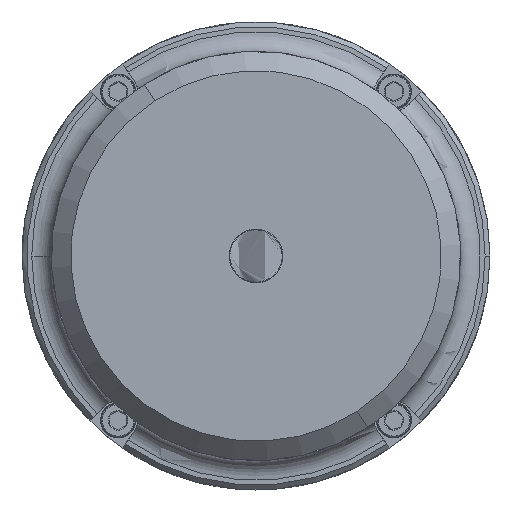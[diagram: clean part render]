
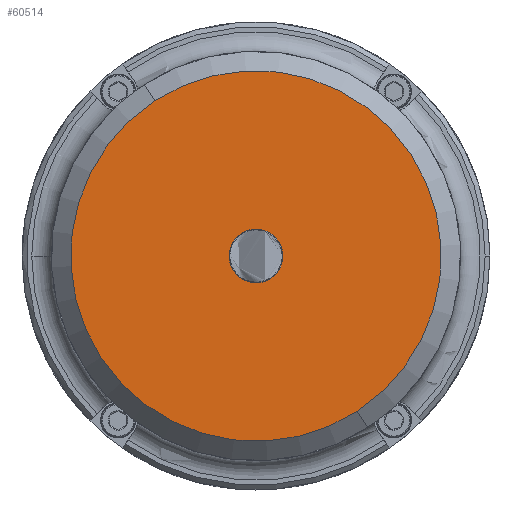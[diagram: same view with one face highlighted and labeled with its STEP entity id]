
A CAD part, front view. The second image highlights one B-rep face of the part: STEP entity #60514.
In plain terms, the highlighted planar face has unit normal (0, -1, 0).
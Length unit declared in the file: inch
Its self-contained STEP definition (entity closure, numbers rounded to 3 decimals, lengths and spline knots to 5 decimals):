
#3442 = EDGE_CURVE ( 'NONE', #30199, #14280, #29930, .T. ) ;
#4521 = CARTESIAN_POINT ( 'NONE',  ( 0.6495, -1.4375, -0.99414 ) ) ;
#8696 = DIRECTION ( 'NONE',  ( -0.547, 0., 0.837 ) ) ;
#14280 = VERTEX_POINT ( 'NONE', #47509 ) ;
#14642 = CIRCLE ( 'NONE', #36702, 1.1875 ) ;
#19298 = FACE_OUTER_BOUND ( 'NONE', #53561, .T. ) ;
#23689 = CARTESIAN_POINT ( 'NONE',  ( -0.09407, -1.4375, 0.14399 ) ) ;
#25819 = PLANE ( 'NONE',  #64398 ) ;
#26293 = AXIS2_PLACEMENT_3D ( 'NONE', #32739, #31959, #37609 ) ;
#27075 = DIRECTION ( 'NONE',  ( 0., -1., 0. ) ) ;
#28021 = EDGE_CURVE ( 'NONE', #14280, #30199, #14642, .T. ) ;
#28074 = VERTEX_POINT ( 'NONE', #75691 ) ;
#29122 = EDGE_CURVE ( 'NONE', #33168, #28074, #45985, .T. ) ;
#29819 = EDGE_LOOP ( 'NONE', ( #53739, #76749 ) ) ;
#29930 = CIRCLE ( 'NONE', #49328, 1.1875 ) ;
#30199 = VERTEX_POINT ( 'NONE', #4521 ) ;
#31657 = EDGE_CURVE ( 'NONE', #28074, #33168, #72854, .T. ) ;
#31959 = DIRECTION ( 'NONE',  ( 0., -1., 0. ) ) ;
#32739 = CARTESIAN_POINT ( 'NONE',  ( 0., -1.4375, 0. ) ) ;
#33103 = DIRECTION ( 'NONE',  ( 0., 1., 0. ) ) ;
#33168 = VERTEX_POINT ( 'NONE', #23689 ) ;
#36702 = AXIS2_PLACEMENT_3D ( 'NONE', #68376, #27075, #74881 ) ;
#37609 = DIRECTION ( 'NONE',  ( -0.547, 0., 0.837 ) ) ;
#37959 = FACE_BOUND ( 'NONE', #29819, .T. ) ;
#44876 = DIRECTION ( 'NONE',  ( 0., -1., 0. ) ) ;
#45409 = ORIENTED_EDGE ( 'NONE', *, *, #3442, .T. ) ;
#45985 = CIRCLE ( 'NONE', #48571, 0.172 ) ;
#47509 = CARTESIAN_POINT ( 'NONE',  ( -0.6495, -1.4375, 0.99414 ) ) ;
#48571 = AXIS2_PLACEMENT_3D ( 'NONE', #53286, #65800, #8696 ) ;
#49328 = AXIS2_PLACEMENT_3D ( 'NONE', #49763, #44876, #55866 ) ;
#49763 = CARTESIAN_POINT ( 'NONE',  ( 0., -1.4375, 0. ) ) ;
#50481 = CARTESIAN_POINT ( 'NONE',  ( -1.09878, -1.4375, -0.71786 ) ) ;
#53286 = CARTESIAN_POINT ( 'NONE',  ( 0., -1.4375, 0. ) ) ;
#53561 = EDGE_LOOP ( 'NONE', ( #45409, #56090 ) ) ;
#53739 = ORIENTED_EDGE ( 'NONE', *, *, #29122, .F. ) ;
#55866 = DIRECTION ( 'NONE',  ( 0.547, 0., -0.837 ) ) ;
#56090 = ORIENTED_EDGE ( 'NONE', *, *, #28021, .T. ) ;
#60514 = ADVANCED_FACE ( 'NONE', ( #37959, #19298 ), #25819, .F. ) ;
#64398 = AXIS2_PLACEMENT_3D ( 'NONE', #50481, #33103, #75208 ) ;
#65800 = DIRECTION ( 'NONE',  ( 0., -1., 0. ) ) ;
#68376 = CARTESIAN_POINT ( 'NONE',  ( 0., -1.4375, 0. ) ) ;
#72854 = CIRCLE ( 'NONE', #26293, 0.172 ) ;
#74881 = DIRECTION ( 'NONE',  ( 0.547, 0., -0.837 ) ) ;
#75208 = DIRECTION ( 'NONE',  ( 0.547, 0., -0.837 ) ) ;
#75691 = CARTESIAN_POINT ( 'NONE',  ( 0.09407, -1.4375, -0.14399 ) ) ;
#76749 = ORIENTED_EDGE ( 'NONE', *, *, #31657, .F. ) ;
